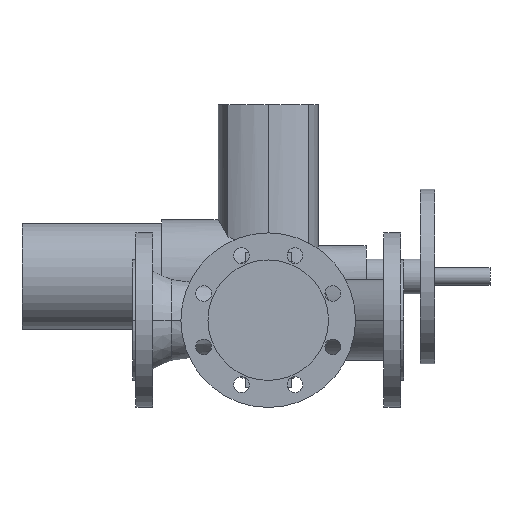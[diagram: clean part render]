
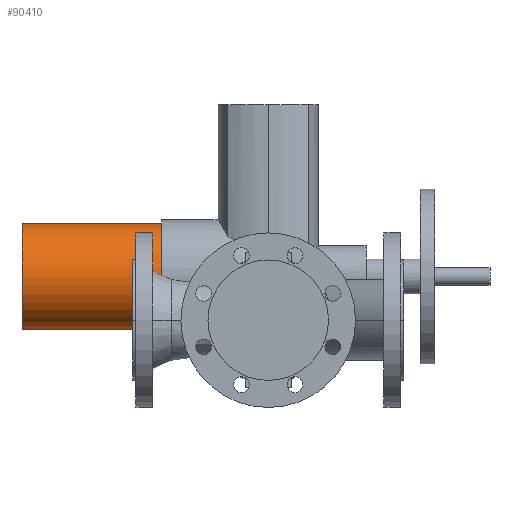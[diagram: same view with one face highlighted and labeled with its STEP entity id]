
A CAD part, front view. The second image highlights one B-rep face of the part: STEP entity #90410.
In plain terms, the highlighted cylindrical face has radius 60.5 mm (diameter 121 mm), a partial arc.
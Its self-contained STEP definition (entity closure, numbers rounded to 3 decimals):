
#52460=CARTESIAN_POINT('',(-47.,506.5,50.));
#52470=DIRECTION('',(1.,0.,0.));
#52480=DIRECTION('',(0.,0.,-1.));
#52490=AXIS2_PLACEMENT_3D('',#52460,#52470,#52480);
#52500=CYLINDRICAL_SURFACE('',#52490,60.5);
#52510=CARTESIAN_POINT('',(-47.,506.5,110.5));
#52520=DIRECTION('',(1.,0.,0.));
#52530=VECTOR('',#52520,1.);
#52540=LINE('',#52510,#52530);
#52550=CARTESIAN_POINT('',(-127.,506.5,110.5));
#52560=VERTEX_POINT('',#52550);
#52570=CARTESIAN_POINT('',(33.,506.5,110.5));
#52580=VERTEX_POINT('',#52570);
#52590=EDGE_CURVE('',#52560,#52580,#52540,.T.);
#52610=CARTESIAN_POINT('',(-127.,506.5,50.));
#52620=DIRECTION('',(-1.,0.,0.));
#52630=DIRECTION('',(0.,0.,-1.));
#52640=AXIS2_PLACEMENT_3D('',#52610,#52620,#52630);
#52650=CIRCLE('',#52640,60.5);
#52660=CARTESIAN_POINT('',(-127.,506.5,-10.5));
#52670=VERTEX_POINT('',#52660);
#52700=CARTESIAN_POINT('',(-47.,506.5,-10.5));
#52710=DIRECTION('',(1.,0.,0.));
#52720=VECTOR('',#52710,1.);
#52730=LINE('',#52700,#52720);
#52740=CARTESIAN_POINT('',(33.,506.5,-10.5));
#52750=VERTEX_POINT('',#52740);
#52760=EDGE_CURVE('',#52670,#52750,#52730,.T.);
#52780=CARTESIAN_POINT('',(33.,506.5,50.));
#52790=DIRECTION('',(-1.,0.,0.));
#52800=DIRECTION('',(0.,0.,-1.));
#52810=AXIS2_PLACEMENT_3D('',#52780,#52790,#52800);
#52820=CIRCLE('',#52810,60.5);
#71120=EDGE_CURVE('',#52750,#52580,#52820,.T.);
#71620=EDGE_CURVE('',#52670,#52560,#52650,.T.);
#90350=ORIENTED_EDGE('',*,*,#52590,.F.);
#90360=ORIENTED_EDGE('',*,*,#71120,.T.);
#90370=ORIENTED_EDGE('',*,*,#52760,.T.);
#90380=ORIENTED_EDGE('',*,*,#71620,.F.);
#90390=EDGE_LOOP('',(#90380,#90370,#90360,#90350));
#90400=FACE_OUTER_BOUND('',#90390,.T.);
#90410=ADVANCED_FACE('',(#90400),#52500,.T.);
